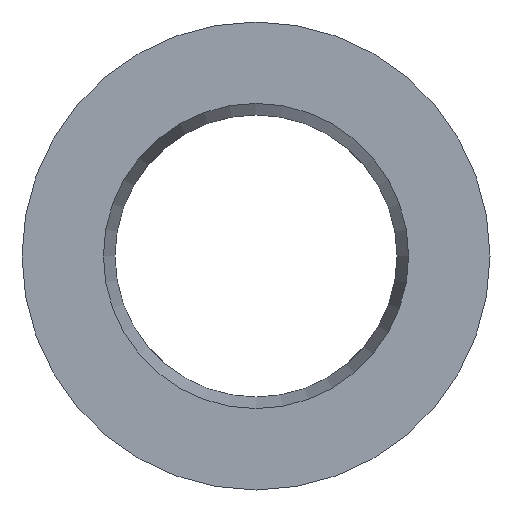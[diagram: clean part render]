
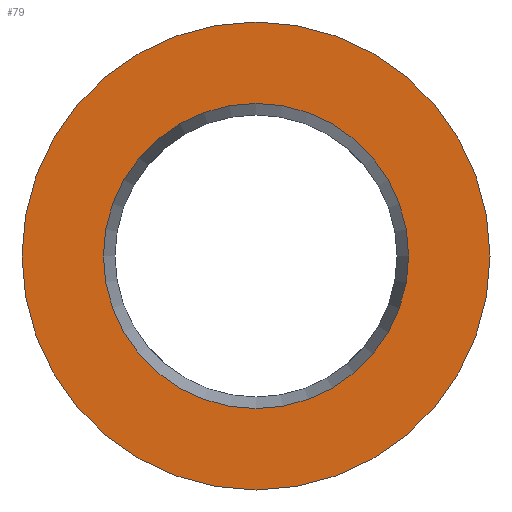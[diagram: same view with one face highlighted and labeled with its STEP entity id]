
A CAD part, front view. The second image highlights one B-rep face of the part: STEP entity #79.
In plain terms, the highlighted planar face has unit normal (0, -1, 0).
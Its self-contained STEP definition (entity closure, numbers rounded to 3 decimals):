
#79 = ADVANCED_FACE( '', ( #94, #95 ), #96, .T. );
#94 = FACE_OUTER_BOUND( '', #112, .T. );
#95 = FACE_BOUND( '', #113, .T. );
#96 = PLANE( '', #114 );
#112 = EDGE_LOOP( '', ( #138 ) );
#113 = EDGE_LOOP( '', ( #139 ) );
#114 = AXIS2_PLACEMENT_3D( '', #140, #141, #142 );
#138 = ORIENTED_EDGE( '', *, *, #153, .T. );
#139 = ORIENTED_EDGE( '', *, *, #152, .F. );
#140 = CARTESIAN_POINT( '', ( 4.5, 0., 0. ) );
#141 = DIRECTION( '', ( 0., -1., 0. ) );
#142 = DIRECTION( '', ( 0., 0., -1. ) );
#152 = EDGE_CURVE( '', #162, #162, #163, .T. );
#153 = EDGE_CURVE( '', #164, #164, #165, .T. );
#162 = VERTEX_POINT( '', #174 );
#163 = CIRCLE( '', #175, 4.5 );
#164 = VERTEX_POINT( '', #176 );
#165 = CIRCLE( '', #177, 6.9 );
#174 = CARTESIAN_POINT( '', ( 0., 0., -4.5 ) );
#175 = AXIS2_PLACEMENT_3D( '', #190, #191, #192 );
#176 = CARTESIAN_POINT( '', ( 0., 0., -6.9 ) );
#177 = AXIS2_PLACEMENT_3D( '', #193, #194, #195 );
#190 = CARTESIAN_POINT( '', ( 0., 0., 0. ) );
#191 = DIRECTION( '', ( 0., -1., 0. ) );
#192 = DIRECTION( '', ( 0., 0., -1. ) );
#193 = CARTESIAN_POINT( '', ( 0., 0., 0. ) );
#194 = DIRECTION( '', ( 0., -1., 0. ) );
#195 = DIRECTION( '', ( 0., 0., -1. ) );
